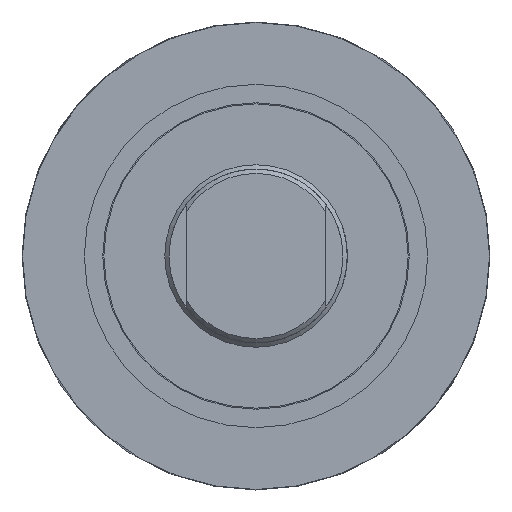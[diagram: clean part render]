
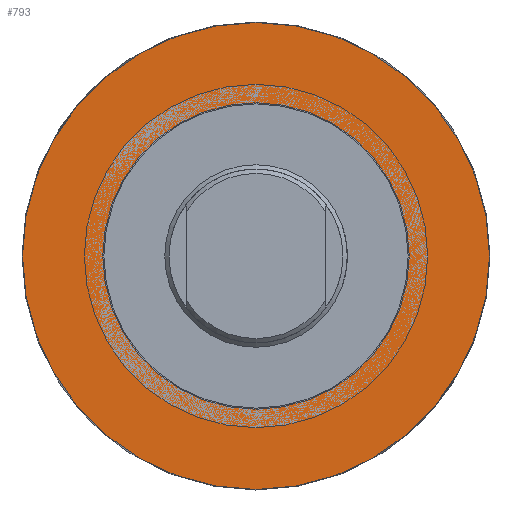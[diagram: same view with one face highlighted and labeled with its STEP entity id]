
A CAD part, left-side view. The second image highlights one B-rep face of the part: STEP entity #793.
In plain terms, the highlighted planar face has unit normal (-1, 0, 0).
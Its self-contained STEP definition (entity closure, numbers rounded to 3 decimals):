
#146=FACE_OUTER_BOUND('',#199,.T.);
#199=EDGE_LOOP('',(#585));
#258=CIRCLE('',#897,53.73);
#335=VERTEX_POINT('',#1415);
#427=EDGE_CURVE('',#335,#335,#258,.T.);
#585=ORIENTED_EDGE('',*,*,#427,.T.);
#699=PLANE('',#896);
#793=ADVANCED_FACE('',(#146),#699,.T.);
#896=AXIS2_PLACEMENT_3D('',#1414,#1083,#1084);
#897=AXIS2_PLACEMENT_3D('',#1416,#1085,#1086);
#1083=DIRECTION('center_axis',(-1.,0.,0.));
#1084=DIRECTION('ref_axis',(0.,0.,-1.));
#1085=DIRECTION('center_axis',(-1.,0.,0.));
#1086=DIRECTION('ref_axis',(0.,0.,1.));
#1414=CARTESIAN_POINT('Origin',(96.8,-49.615,0.));
#1415=CARTESIAN_POINT('',(96.8,-3.,-53.73));
#1416=CARTESIAN_POINT('Origin',(96.8,-3.,0.));
